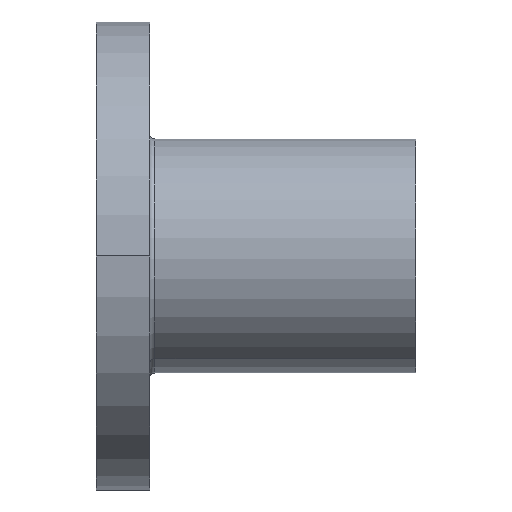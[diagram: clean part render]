
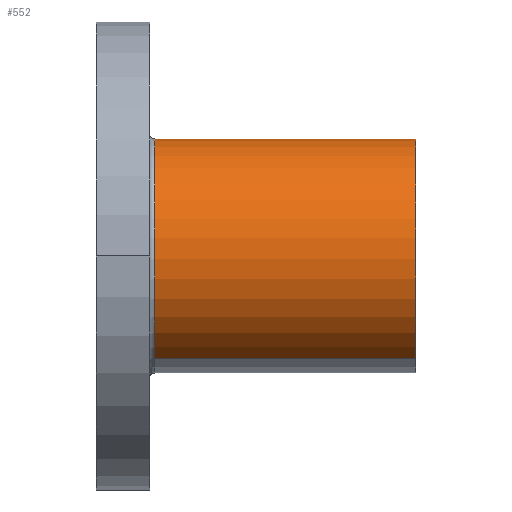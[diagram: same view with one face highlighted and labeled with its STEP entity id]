
A CAD part, front view. The second image highlights one B-rep face of the part: STEP entity #552.
In plain terms, the highlighted cylindrical face has radius 11 mm (diameter 22 mm), a partial arc.
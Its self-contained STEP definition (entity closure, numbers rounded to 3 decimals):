
#143=CARTESIAN_POINT('Axis2P3D Location',(30.,0.,0.)) ;
#147=CARTESIAN_POINT('Vertex',(30.,5.274,9.653)) ;
#149=CARTESIAN_POINT('Vertex',(30.,-5.274,-9.653)) ;
#522=CARTESIAN_POINT('Axis2P3D Location',(49.592,0.,0.)) ;
#527=CARTESIAN_POINT('Line Origine',(49.592,-5.274,-9.653)) ;
#531=CARTESIAN_POINT('Vertex',(5.5,-5.274,-9.653)) ;
#534=CARTESIAN_POINT('Line Origine',(49.592,5.274,9.653)) ;
#538=CARTESIAN_POINT('Vertex',(5.5,5.274,9.653)) ;
#541=CARTESIAN_POINT('Axis2P3D Location',(5.5,0.,0.)) ;
#144=DIRECTION('Axis2P3D Direction',(1.,0.,0.)) ;
#523=DIRECTION('Axis2P3D Direction',(-1.,0.,0.)) ;
#524=DIRECTION('Axis2P3D XDirection',(0.,-0.479,-0.878)) ;
#528=DIRECTION('Vector Direction',(-1.,0.,0.)) ;
#535=DIRECTION('Vector Direction',(-1.,0.,0.)) ;
#542=DIRECTION('Axis2P3D Direction',(-1.,0.,0.)) ;
#145=AXIS2_PLACEMENT_3D('Circle Axis2P3D',#143,#144,$) ;
#525=AXIS2_PLACEMENT_3D('Cylinder Axis2P3D',#522,#523,#524) ;
#543=AXIS2_PLACEMENT_3D('Circle Axis2P3D',#541,#542,$) ;
#547=ORIENTED_EDGE('',*,*,#533,.F.) ;
#548=ORIENTED_EDGE('',*,*,#151,.F.) ;
#549=ORIENTED_EDGE('',*,*,#540,.T.) ;
#550=ORIENTED_EDGE('',*,*,#545,.T.) ;
#529=VECTOR('Line Direction',#528,1.) ;
#536=VECTOR('Line Direction',#535,1.) ;
#552=ADVANCED_FACE('CTM14',(#551),#526,.T.) ;
#146=CIRCLE('generated circle',#145,11.) ;
#544=CIRCLE('generated circle',#543,11.) ;
#526=CYLINDRICAL_SURFACE('generated cylinder',#525,11.) ;
#151=EDGE_CURVE('',#148,#150,#146,.T.) ;
#533=EDGE_CURVE('',#150,#532,#530,.T.) ;
#540=EDGE_CURVE('',#148,#539,#537,.T.) ;
#545=EDGE_CURVE('',#539,#532,#544,.F.) ;
#546=EDGE_LOOP('',(#547,#548,#549,#550)) ;
#551=FACE_OUTER_BOUND('',#546,.T.) ;
#530=LINE('Line',#527,#529) ;
#537=LINE('Line',#534,#536) ;
#148=VERTEX_POINT('',#147) ;
#150=VERTEX_POINT('',#149) ;
#532=VERTEX_POINT('',#531) ;
#539=VERTEX_POINT('',#538) ;
